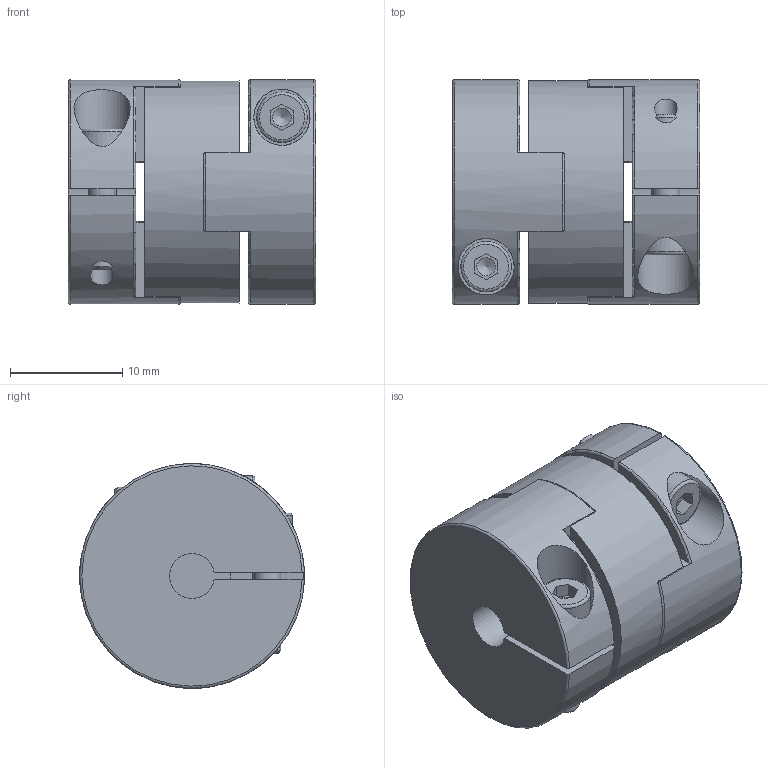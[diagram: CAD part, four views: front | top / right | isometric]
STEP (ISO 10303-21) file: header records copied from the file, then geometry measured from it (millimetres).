
FILE_DESCRIPTION( ( 'Unknown' ), '1' );
FILE_NAME( 'F:/JAKOB-STEP+IGES-Dateien/STEP-Dateien/MOH-C/MOH-C 20.stp', 'Unknown', ( 'Unknown' ), ( 'Unknown' ), 'PSStep 10.1', 'Unknown', ' ' );
FILE_SCHEMA( ( 'AUTOMOTIVE_DESIGN { 1 0 10303 214 1 1 1 1 }' ) );
Length unit declared in the file: millimetre
Products named in the file (1): KT100380-oa0
Bounding box: 22 x 20 x 20 mm (x, y, z)
Volume: 5862.8 mm3; surface area: 3625.2 mm2
Topology: 1 solids, 1 shells, 123 faces, 360 edges, 220 vertices
Faces by surface type: plane 48, cylinder 45, torus 18, bspline 8, cone 4
Full cylindrical faces by diameter (mm): 2.5 x2, 3 x2, 4.5 x2, 5 x2, 19.8 x1
Entity records: 5442 total; most frequent: CARTESIAN_POINT 1472, ORIENTED_EDGE 636, DIRECTION 572, EDGE_CURVE 318, AXIS2_PLACEMENT_3D 212, VERTEX_POINT 208, EDGE_LOOP 156, LINE 148
